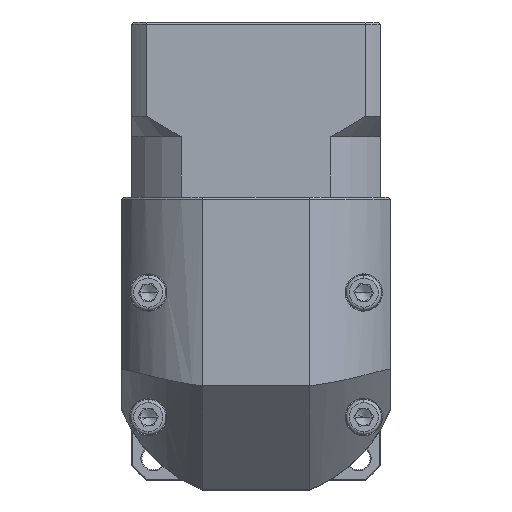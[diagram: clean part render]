
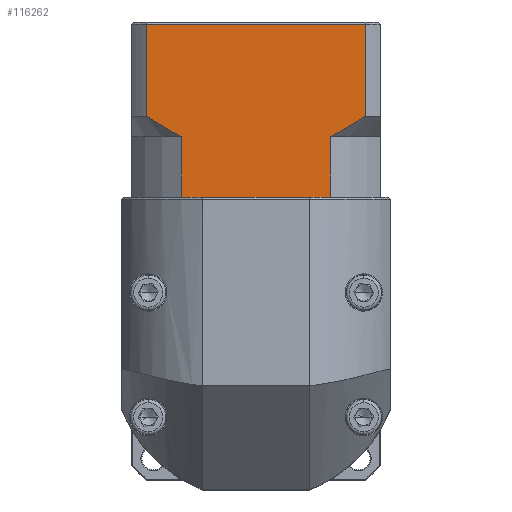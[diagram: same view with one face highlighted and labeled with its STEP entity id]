
A CAD part, top view. The second image highlights one B-rep face of the part: STEP entity #116262.
In plain terms, the highlighted planar face has unit normal (0, 0, 1).
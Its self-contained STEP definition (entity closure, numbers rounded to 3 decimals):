
#1691 = EDGE_CURVE ( 'NONE', #126157, #128271, #132521, .T. ) ;
#4694 = VERTEX_POINT ( 'NONE', #93281 ) ;
#7925 = EDGE_CURVE ( 'NONE', #50890, #112896, #118438, .T. ) ;
#9097 = VECTOR ( 'NONE', #51712, 1000. ) ;
#9712 = VECTOR ( 'NONE', #21410, 1000. ) ;
#12132 = CARTESIAN_POINT ( 'NONE',  ( -74.399, 111.047, 66.299 ) ) ;
#12735 = AXIS2_PLACEMENT_3D ( 'NONE', #93312, #95526, #106302 ) ;
#13010 = CARTESIAN_POINT ( 'NONE',  ( -67.329, 106.946, 66.299 ) ) ;
#16936 = CARTESIAN_POINT ( 'NONE',  ( -22.844, 111.946, 66.299 ) ) ;
#17146 = ORIENTED_EDGE ( 'NONE', *, *, #34653, .T. ) ;
#18337 = EDGE_CURVE ( 'NONE', #112896, #87275, #96794, .T. ) ;
#21410 = DIRECTION ( 'NONE',  ( -1., 0., 0. ) ) ;
#22809 = CARTESIAN_POINT ( 'NONE',  ( -67.329, 106.946, 66.299 ) ) ;
#23372 = CARTESIAN_POINT ( 'NONE',  ( -28.392, 108.497, 66.299 ) ) ;
#24047 = CARTESIAN_POINT ( 'NONE',  ( -32.265, 92.446, 66.299 ) ) ;
#25233 = B_SPLINE_CURVE_WITH_KNOTS ( 'NONE', 3,
 ( #52404, #72572, #23372, #94053, #83355, #52851 ),
 .UNSPECIFIED., .F., .F.,
 ( 4, 2, 4 ),
 ( 0.1, 0.104, 0.109 ),
 .UNSPECIFIED. ) ;
#25408 = VERTEX_POINT ( 'NONE', #79207 ) ;
#29943 = CARTESIAN_POINT ( 'NONE',  ( -31.274, 106.946, 66.299 ) ) ;
#32533 = CARTESIAN_POINT ( 'NONE',  ( -67.329, 106.946, 66.299 ) ) ;
#32935 = PLANE ( 'NONE',  #12735 ) ;
#34653 = EDGE_CURVE ( 'NONE', #126157, #79751, #25233, .T. ) ;
#35201 = ORIENTED_EDGE ( 'NONE', *, *, #128704, .F. ) ;
#35251 = CARTESIAN_POINT ( 'NONE',  ( -31.274, 92.446, 66.299 ) ) ;
#35270 = CARTESIAN_POINT ( 'NONE',  ( -75.759, 134.146, 66.299 ) ) ;
#36198 = ORIENTED_EDGE ( 'NONE', *, *, #61212, .F. ) ;
#39951 = CARTESIAN_POINT ( 'NONE',  ( -79.302, 92.446, 66.299 ) ) ;
#41202 = ORIENTED_EDGE ( 'NONE', *, *, #89256, .F. ) ;
#46781 = ORIENTED_EDGE ( 'NONE', *, *, #54412, .T. ) ;
#50890 = VERTEX_POINT ( 'NONE', #66343 ) ;
#51044 = VECTOR ( 'NONE', #130842, 1000. ) ;
#51712 = DIRECTION ( 'NONE',  ( 1., 0., 0. ) ) ;
#52404 = CARTESIAN_POINT ( 'NONE',  ( -31.274, 106.946, 66.299 ) ) ;
#52851 = CARTESIAN_POINT ( 'NONE',  ( -22.844, 111.946, 66.299 ) ) ;
#54412 = EDGE_CURVE ( 'NONE', #25408, #93259, #125845, .T. ) ;
#58741 = VECTOR ( 'NONE', #92922, 1000. ) ;
#61212 = EDGE_CURVE ( 'NONE', #50890, #93259, #101328, .T. ) ;
#62020 = CARTESIAN_POINT ( 'NONE',  ( -75.759, 106.946, 66.299 ) ) ;
#62489 = LINE ( 'NONE', #82722, #9712 ) ;
#62597 = CARTESIAN_POINT ( 'NONE',  ( -68.781, 107.694, 66.299 ) ) ;
#62698 = ORIENTED_EDGE ( 'NONE', *, *, #18337, .T. ) ;
#63051 = CARTESIAN_POINT ( 'NONE',  ( -70.213, 108.498, 66.299 ) ) ;
#63431 = LINE ( 'NONE', #78608, #9097 ) ;
#63916 = DIRECTION ( 'NONE',  ( 0., 1., 0. ) ) ;
#64644 = VERTEX_POINT ( 'NONE', #35270 ) ;
#66343 = CARTESIAN_POINT ( 'NONE',  ( -67.329, 92.446, 66.299 ) ) ;
#67700 = DIRECTION ( 'NONE',  ( 0., -1., 0. ) ) ;
#72572 = CARTESIAN_POINT ( 'NONE',  ( -29.817, 107.696, 66.299 ) ) ;
#77850 = EDGE_LOOP ( 'NONE', ( #35201, #99728, #41202, #46781, #36198, #113502, #62698, #100384, #131797, #17146 ) ) ;
#78608 = CARTESIAN_POINT ( 'NONE',  ( -79.302, 92.446, 66.299 ) ) ;
#79207 = CARTESIAN_POINT ( 'NONE',  ( -75.759, 111.946, 66.299 ) ) ;
#79751 = VERTEX_POINT ( 'NONE', #16936 ) ;
#82722 = CARTESIAN_POINT ( 'NONE',  ( -79.302, 134.146, 66.299 ) ) ;
#83355 = CARTESIAN_POINT ( 'NONE',  ( -24.207, 111.045, 66.299 ) ) ;
#83530 = CARTESIAN_POINT ( 'NONE',  ( -31.274, 106.946, 66.299 ) ) ;
#84124 = CARTESIAN_POINT ( 'NONE',  ( -75.759, 111.946, 66.299 ) ) ;
#85835 = LINE ( 'NONE', #62020, #105059 ) ;
#86852 = LINE ( 'NONE', #120108, #114116 ) ;
#87275 = VERTEX_POINT ( 'NONE', #24047 ) ;
#89256 = EDGE_CURVE ( 'NONE', #25408, #64644, #85835, .T. ) ;
#92668 = CARTESIAN_POINT ( 'NONE',  ( -66.338, 92.446, 66.299 ) ) ;
#92922 = DIRECTION ( 'NONE',  ( 0., -1., 0. ) ) ;
#93259 = VERTEX_POINT ( 'NONE', #32533 ) ;
#93281 = CARTESIAN_POINT ( 'NONE',  ( -22.844, 134.146, 66.299 ) ) ;
#93312 = CARTESIAN_POINT ( 'NONE',  ( -79.302, 134.646, 66.299 ) ) ;
#94053 = CARTESIAN_POINT ( 'NONE',  ( -25.587, 110.171, 66.299 ) ) ;
#95526 = DIRECTION ( 'NONE',  ( 0., 0., -1. ) ) ;
#96794 = LINE ( 'NONE', #39951, #132051 ) ;
#99728 = ORIENTED_EDGE ( 'NONE', *, *, #100959, .T. ) ;
#100384 = ORIENTED_EDGE ( 'NONE', *, *, #102925, .T. ) ;
#100959 = EDGE_CURVE ( 'NONE', #4694, #64644, #62489, .T. ) ;
#101328 = LINE ( 'NONE', #13010, #117465 ) ;
#102111 = DIRECTION ( 'NONE',  ( 1., 0., 0. ) ) ;
#102925 = EDGE_CURVE ( 'NONE', #87275, #128271, #63431, .T. ) ;
#105059 = VECTOR ( 'NONE', #112699, 1000. ) ;
#106302 = DIRECTION ( 'NONE',  ( 0., 1., 0. ) ) ;
#109943 = FACE_OUTER_BOUND ( 'NONE', #77850, .T. ) ;
#112699 = DIRECTION ( 'NONE',  ( 0., 1., 0. ) ) ;
#112896 = VERTEX_POINT ( 'NONE', #92668 ) ;
#113502 = ORIENTED_EDGE ( 'NONE', *, *, #7925, .T. ) ;
#114116 = VECTOR ( 'NONE', #67700, 1000. ) ;
#114164 = CARTESIAN_POINT ( 'NONE',  ( -73.021, 110.173, 66.299 ) ) ;
#116262 = ADVANCED_FACE ( 'NONE', ( #109943 ), #32935, .F. ) ;
#117465 = VECTOR ( 'NONE', #63916, 1000. ) ;
#118438 = LINE ( 'NONE', #120959, #51044 ) ;
#120108 = CARTESIAN_POINT ( 'NONE',  ( -22.844, 106.946, 66.299 ) ) ;
#120959 = CARTESIAN_POINT ( 'NONE',  ( -79.302, 92.446, 66.299 ) ) ;
#125845 = B_SPLINE_CURVE_WITH_KNOTS ( 'NONE', 3,
 ( #84124, #12132, #114164, #63051, #62597, #22809 ),
 .UNSPECIFIED., .F., .F.,
 ( 4, 2, 4 ),
 ( 0.052, 0.057, 0.062 ),
 .UNSPECIFIED. ) ;
#126157 = VERTEX_POINT ( 'NONE', #29943 ) ;
#128271 = VERTEX_POINT ( 'NONE', #35251 ) ;
#128704 = EDGE_CURVE ( 'NONE', #4694, #79751, #86852, .T. ) ;
#130842 = DIRECTION ( 'NONE',  ( 1., 0., 0. ) ) ;
#131797 = ORIENTED_EDGE ( 'NONE', *, *, #1691, .F. ) ;
#132051 = VECTOR ( 'NONE', #102111, 1000. ) ;
#132521 = LINE ( 'NONE', #83530, #58741 ) ;
